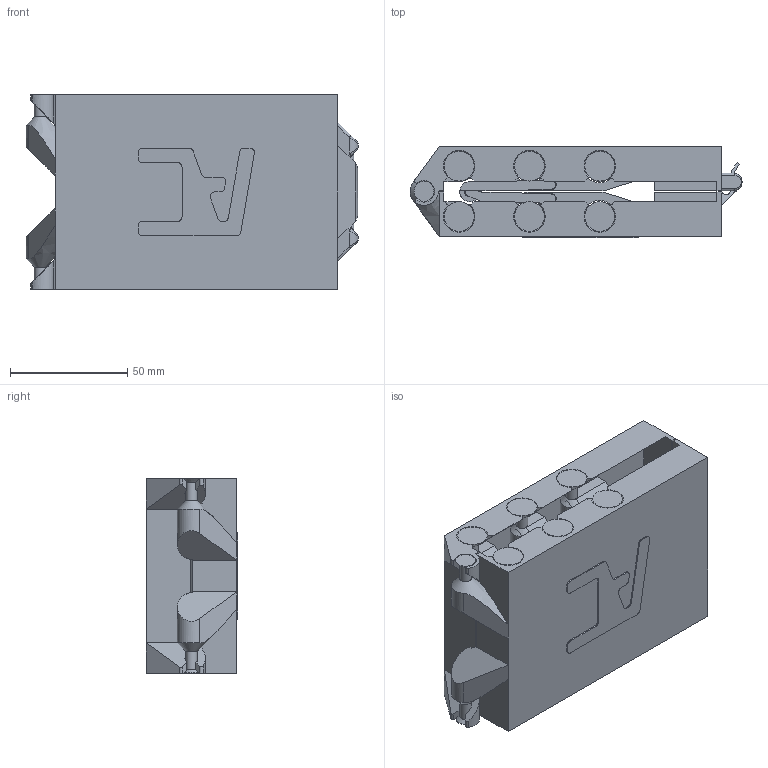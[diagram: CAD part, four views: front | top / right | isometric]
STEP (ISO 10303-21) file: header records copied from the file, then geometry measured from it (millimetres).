
FILE_DESCRIPTION(/* description */ (''),/* implementation_level */ '2;1');
FILE_NAME(/* name */ 'C:/Users/cookn/OneDrive/Documents/Screw Driver Bit Set Case.step',/* time_stamp */ '2021-10-12T00:37:06-04:00',/* author */ (''),/* organization */ (''),/* preprocessor_version */ 'ST-DEVELOPER v18.1',/* originating_system */ 'Autodesk Translation Framework v10.10.0.1391',/* authorisation */ '');
FILE_SCHEMA (('AUTOMOTIVE_DESIGN { 1 0 10303 214 3 1 1 }'));
Length unit declared in the file: millimetre
Products named in the file (2): Final; Test2
Assembly tree (1 placements, depth 2):
  Final
    Test2
Bounding box: 141.74 x 39.03 x 83.1 mm (x, y, z)
Volume: 135898.9 mm3; surface area: 116811.5 mm2
Topology: 12 solids, 12 shells, 1345 faces, 3682 edges, 2378 vertices
Faces by surface type: plane 875, cylinder 370, cone 82, bspline 18
Full cylindrical faces by diameter (mm): 4 x10, 4.5 x9, 5 x8, 6 x6, 6.5 x6
Entity records: 43174 total; most frequent: CARTESIAN_POINT 8310, ORIENTED_EDGE 7364, DIRECTION 7245, EDGE_CURVE 3682, LINE 2719, VECTOR 2719, VERTEX_POINT 2378, AXIS2_PLACEMENT_3D 2263
